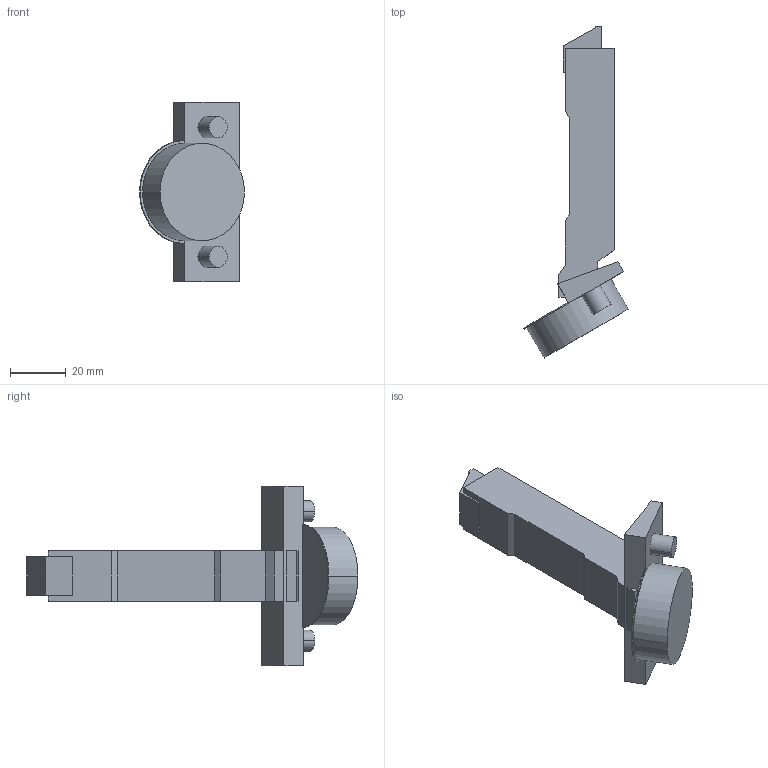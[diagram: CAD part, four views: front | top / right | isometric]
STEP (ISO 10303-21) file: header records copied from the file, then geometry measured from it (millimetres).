
FILE_DESCRIPTION (( 'STEP AP214' ), '1' );
FILE_NAME ('Scharnier T Impresso 120°_-30° MB_BB, aufliegend.step', '2010-12-13T09:58:09', ( 'grass' ), ( '' ), 'SwSTEP 2.0', 'SolidWorks 2010', '' );
FILE_SCHEMA (( 'AUTOMOTIVE_DESIGN' ));
Length unit declared in the file: millimetre
Products named in the file (1): Scharnier T Impresso 120°_-30° MB_BB, aufliegend
Bounding box: 37.68 x 119.25 x 64.5 mm (x, y, z)
Volume: 47639.2 mm3; surface area: 13267.9 mm2
Topology: 1 solids, 3 shells, 61 faces, 141 edges, 94 vertices
Faces by surface type: plane 44, cylinder 17
Entity records: 1759 total; most frequent: DIRECTION 299, CARTESIAN_POINT 297, ORIENTED_EDGE 282, EDGE_CURVE 141, LINE 107, VECTOR 107, AXIS2_PLACEMENT_3D 96, VERTEX_POINT 94
